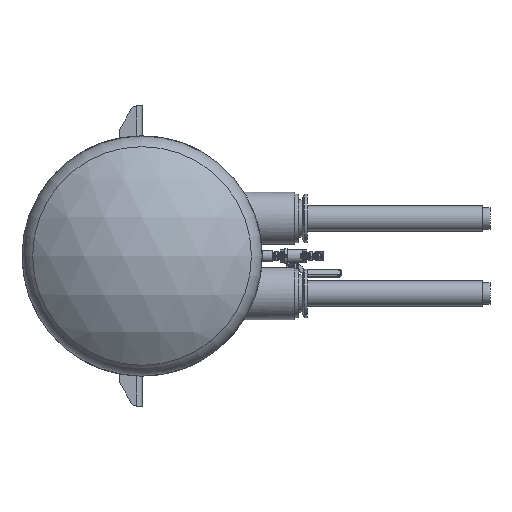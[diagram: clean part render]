
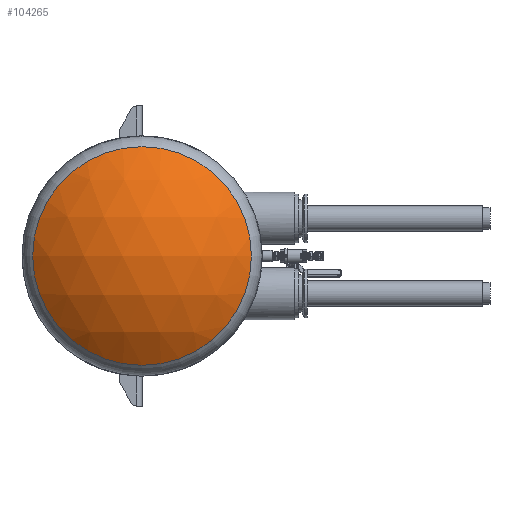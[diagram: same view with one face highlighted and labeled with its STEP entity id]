
A CAD part, left-side view. The second image highlights one B-rep face of the part: STEP entity #104265.
In plain terms, the highlighted spherical face has radius 287.38 mm.
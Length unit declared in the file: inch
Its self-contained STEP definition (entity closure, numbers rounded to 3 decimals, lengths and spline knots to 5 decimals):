
#9919 = AXIS2_PLACEMENT_3D ( 'NONE', #52125, #51245, #12633 ) ;
#12633 = DIRECTION ( 'NONE',  ( 0., 1., 0. ) ) ;
#12988 = DIRECTION ( 'NONE',  ( 0., 0., -1. ) ) ;
#50839 = EDGE_CURVE ( 'NONE', #90840, #90840, #149024, .T. ) ;
#51245 = DIRECTION ( 'NONE',  ( 0., 0., 1. ) ) ;
#52125 = CARTESIAN_POINT ( 'NONE',  ( -35.18582, 0., 0. ) ) ;
#73367 = AXIS2_PLACEMENT_3D ( 'NONE', #79667, #133150, #12988 ) ;
#79667 = CARTESIAN_POINT ( 'NONE',  ( -43.83975, 0., 0. ) ) ;
#90840 = VERTEX_POINT ( 'NONE', #132926 ) ;
#104265 = ADVANCED_FACE ( 'NONE', ( #142499 ), #172270, .T. ) ;
#123383 = ORIENTED_EDGE ( 'NONE', *, *, #50839, .F. ) ;
#132926 = CARTESIAN_POINT ( 'NONE',  ( -43.83975, 0., -7.28836 ) ) ;
#133150 = DIRECTION ( 'NONE',  ( 1., 0., 0. ) ) ;
#142499 = FACE_OUTER_BOUND ( 'NONE', #145613, .T. ) ;
#145613 = EDGE_LOOP ( 'NONE', ( #123383 ) ) ;
#149024 = CIRCLE ( 'NONE', #73367, 7.28836 ) ;
#172270 = SPHERICAL_SURFACE ( 'NONE', #9919, 11.31418 ) ;
